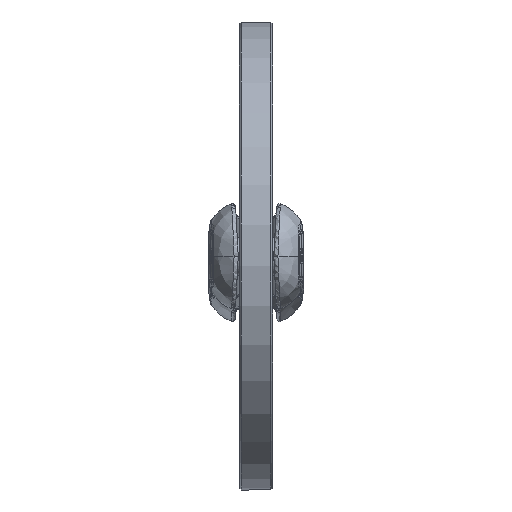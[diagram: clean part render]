
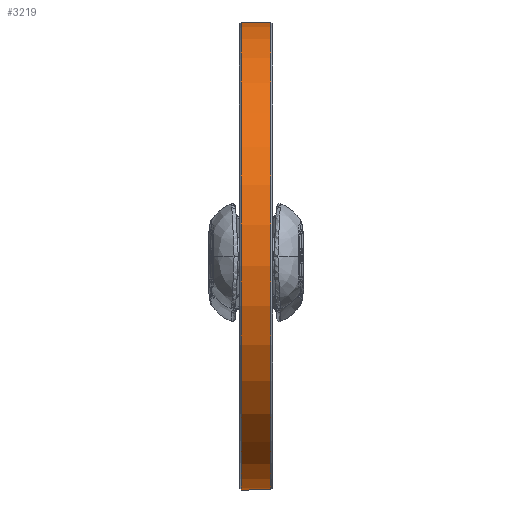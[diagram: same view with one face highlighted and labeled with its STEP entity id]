
A CAD part, top view. The second image highlights one B-rep face of the part: STEP entity #3219.
In plain terms, the highlighted cylindrical face has radius 487.5 mm (diameter 975 mm), a full revolution.
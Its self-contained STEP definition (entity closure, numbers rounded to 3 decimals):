
#668=CYLINDRICAL_SURFACE($,#3581,487.5);
#775=FACE_BOUND($,#1309,.T.);
#995=FACE_OUTER_BOUND($,#1308,.T.);
#1308=EDGE_LOOP($,(#2951));
#1309=EDGE_LOOP($,(#2952));
#1504=CIRCLE($,#3580,487.5);
#1505=CIRCLE($,#3582,487.5);
#1781=VERTEX_POINT($,#14044);
#1782=VERTEX_POINT($,#14047);
#2176=EDGE_CURVE($,#1781,#1781,#1504,.T.);
#2177=EDGE_CURVE($,#1782,#1782,#1505,.T.);
#2951=ORIENTED_EDGE($,*,*,#2177,.F.);
#2952=ORIENTED_EDGE($,*,*,#2176,.F.);
#3219=ADVANCED_FACE($,(#995,#775),#668,.T.);
#3580=AXIS2_PLACEMENT_3D($,#14045,#4341,#4342);
#3581=AXIS2_PLACEMENT_3D($,#14046,#4343,#4344);
#3582=AXIS2_PLACEMENT_3D($,#14048,#4345,#4346);
#4341=DIRECTION('center_axis',(0.,0.,-1.));
#4342=DIRECTION('ref_axis',(-1.,0.,0.));
#4343=DIRECTION('center_axis',(0.,0.,1.));
#4344=DIRECTION('ref_axis',(-1.,0.,0.));
#4345=DIRECTION('center_axis',(0.,0.,1.));
#4346=DIRECTION('ref_axis',(-1.,0.,0.));
#14044=CARTESIAN_POINT('',(487.5,0.,-31.));
#14045=CARTESIAN_POINT('Origin',(0.,0.,-31.));
#14046=CARTESIAN_POINT('Origin',(0.,0.,0.));
#14047=CARTESIAN_POINT('',(487.5,0.,31.));
#14048=CARTESIAN_POINT('Origin',(0.,0.,31.));
